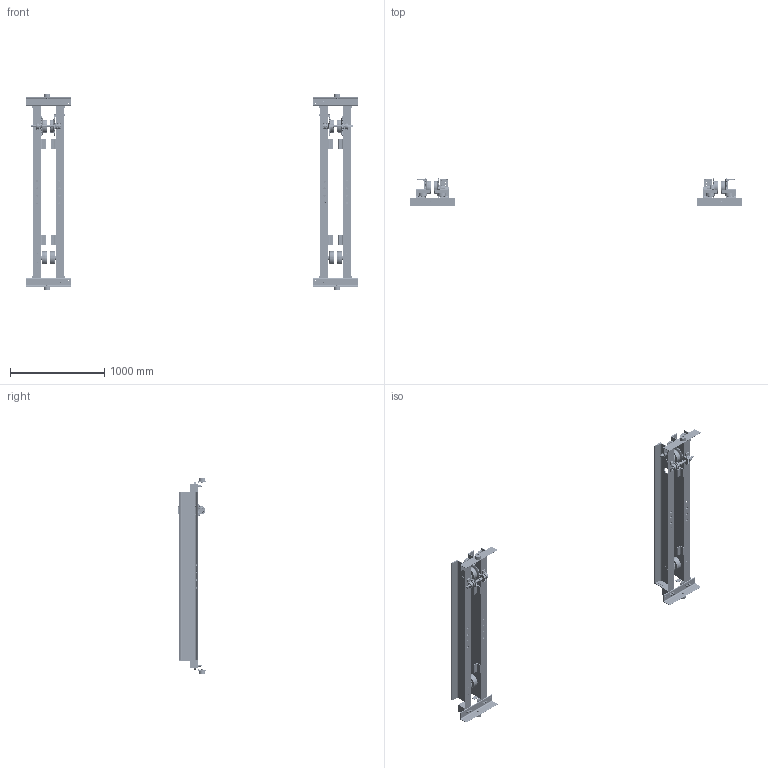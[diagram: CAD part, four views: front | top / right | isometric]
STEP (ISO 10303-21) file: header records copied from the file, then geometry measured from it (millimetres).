
FILE_DESCRIPTION (( 'STEP AP214' ), '1' );
FILE_NAME ('UG-3-0545.STEP', '2026-08-12T14:56:23', ( '' ), ( '' ), 'SwSTEP 2.0', 'SolidWorks 2026', '' );
FILE_SCHEMA (( 'AUTOMOTIVE_DESIGN' ));
Length unit declared in the file: inch
Products named in the file (69): 62340XXU_6234011U; 9043411; 6257003; N6GO310306; 9093427_9093427; MC08-021.4_70; 9047268_B27.7M - 3BM1-68; 6232304; 6234701X_6234701B; 62341XXU_6234114U; N6QO3101108_N6QO3101108; 9047140_9047140; 6232303; N6GO450301; N6QL210207; 6257002_A308-308-006; N6QL210116; 6232404; 9093433_9093433; 9047125_B27.7M - 3AM1-23; 6232603; 62342XXU_6234214U; 9000605; 9012515_9012515; UG-3-0545; 9012514_9012514; N6GO310303; 6234503; 6233203; N6GO4505303; 62343XXU_6234314U; 9012712_9012712; N6QL530E9101_Domestic; N6QO310E9108_N6QO3101108 DOMESTIC; 9047252_9047252; 9093146_9093146; 62338XXU_6233809U; 9000504; 9012519_9012519; 6232403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
Assembly tree (291 placements, depth 5):
  UG-3-0545
    62341XXU_6234114U
      62338XXU_6233809U
        MC08-021.4_70
        6257003
          6257002_A308-308-006
          6257001
        6257003
          6257002_A308-308-006
          6257001
      6232303  x2
      6232304  x2
      5204405_5204405  x2
      6233203  x2
      6257005
    62342XXU_6234214U  x2
      62339XXU_6233909U
        MC08-021.4_70
        6257003
          6257002_A308-308-006
          6257001
        6257003
          6257002_A308-308-006
          6257001
      6232303
      6232304
      5204405_5204405
      6233203
    62343XXU_6234314U
      62340XXU_6234011U
        MC08-021.4_70
        6257003
          6257002_A308-308-006
          6257001
        6257003
          6257002_A308-308-006
          6257001
      6232303  x2
      6232304  x2
      5204405_5204405  x2
      6233203  x2
      6257005
    6234503  x4
      6232603
      9047268_B27.7M - 3BM1-68
      9000508
    6232403  x8
    9047140_9047140  x8
    N6QL5301101  x4
      N6QL530E9101_Domestic
      9047268_B27.7M - 3BM1-68
      9000508
    6232404  x8
    9047125_B27.7M - 3AM1-23  x8
    9012515_9012515  x16
    9093433_9093433  x32
    9093146_9093146  x8
    N6QL210207  x4
    9012514_9012514  x12
    9093101_9093101  x4
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Bounding box: 3519.98 x 302.89 x 2084.61 mm (x, y, z)
Volume: 42583381.5 mm3; surface area: 8625421.3 mm2
Topology: 308 solids, 422 shells, 23052 faces, 61186 edges, 40382 vertices
Faces by surface type: plane 13196, cylinder 5564, cone 2386, bspline 1664, torus 242
Entity records: 147667 total; most frequent: CARTESIAN_POINT 47383, ORIENTED_EDGE 21204, DIRECTION 19084, EDGE_CURVE 10608, AXIS2_PLACEMENT_3D 7089, VERTEX_POINT 7000, VECTOR 4906, LINE 4906
